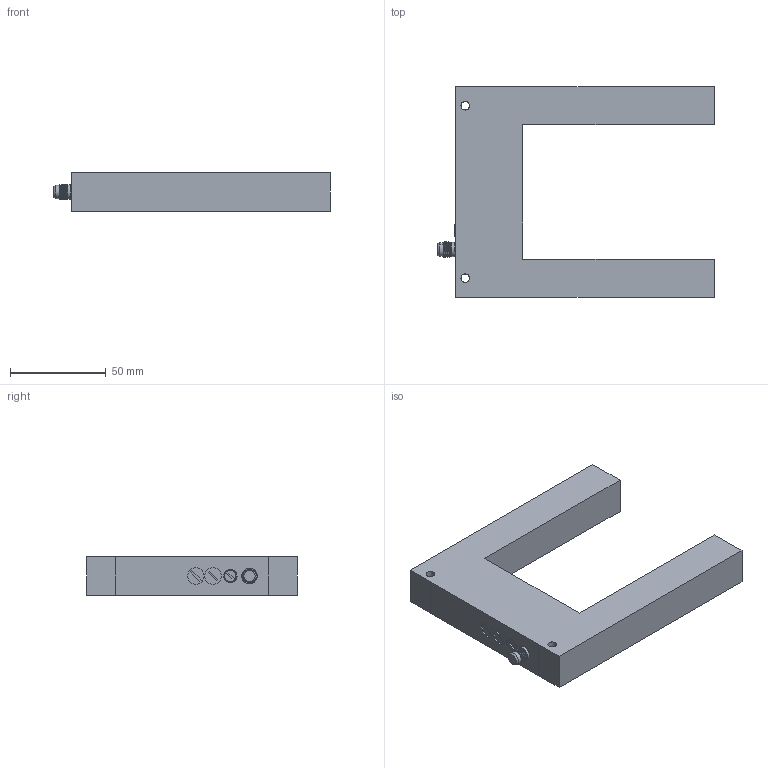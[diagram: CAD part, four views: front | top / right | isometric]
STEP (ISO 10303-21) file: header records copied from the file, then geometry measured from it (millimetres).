
FILE_DESCRIPTION(('STEP AP214'),'1');
FILE_NAME('F:/3D Modelle homepage/tmp0.step','2020-09-01T10:01:48',(' '),(' '),'Spatial InterOp 3D',' ',' ');
FILE_SCHEMA(('automotive_design'));
Length unit declared in the file: millimetre
Products named in the file (1): 1
Bounding box: 144.42 x 110 x 20 mm (x, y, z)
Volume: 156669.1 mm3; surface area: 30396.9 mm2
Topology: 1 solids, 1 shells, 86 faces, 208 edges, 135 vertices
Faces by surface type: plane 40, cylinder 36, cone 4, torus 4, bspline 2
Entity records: 5180 total; most frequent: CARTESIAN_POINT 2466, ORIENTED_EDGE 416, DIRECTION 400, EDGE_CURVE 208, AXIS2_PLACEMENT_3D 143, VERTEX_POINT 135, LINE 114, VECTOR 114
